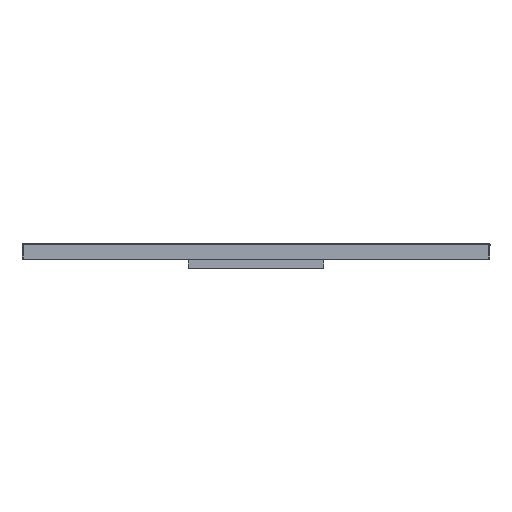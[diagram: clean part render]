
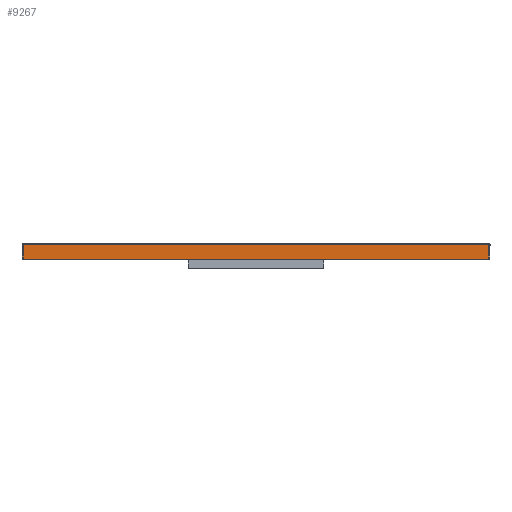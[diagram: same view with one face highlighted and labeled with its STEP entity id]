
A CAD part, left-side view. The second image highlights one B-rep face of the part: STEP entity #9267.
In plain terms, the highlighted planar face has unit normal (-1, 0, 0).
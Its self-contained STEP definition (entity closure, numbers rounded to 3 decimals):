
#268 = ORIENTED_EDGE ( 'NONE', *, *, #986, .F. ) ;
#656 = LINE ( 'NONE', #13408, #8751 ) ;
#760 = CARTESIAN_POINT ( 'NONE',  ( -84.056, 101.597, -2.091 ) ) ;
#789 = CARTESIAN_POINT ( 'NONE',  ( -84.056, 936.93, -30. ) ) ;
#821 = EDGE_CURVE ( 'NONE', #3640, #9949, #12649, .T. ) ;
#986 = EDGE_CURVE ( 'NONE', #12952, #1796, #3260, .T. ) ;
#1105 = EDGE_CURVE ( 'NONE', #9949, #12952, #6087, .T. ) ;
#1220 = CARTESIAN_POINT ( 'NONE',  ( -84.056, 40.93, -30. ) ) ;
#1796 = VERTEX_POINT ( 'NONE', #789 ) ;
#1805 = CARTESIAN_POINT ( 'NONE',  ( -84.056, 929.931, -2.017 ) ) ;
#1871 = CARTESIAN_POINT ( 'NONE',  ( -84.056, 47.93, -2.017 ) ) ;
#1939 = CARTESIAN_POINT ( 'NONE',  ( -84.056, 908.931, -2.06 ) ) ;
#2003 = CARTESIAN_POINT ( 'NONE',  ( -84.056, 43.264, -2.009 ) ) ;
#2643 = DIRECTION ( 'NONE',  ( 0., 0., -1. ) ) ;
#2852 = CARTESIAN_POINT ( 'NONE',  ( -84.056, 208.93, -2.075 ) ) ;
#2901 = CARTESIAN_POINT ( 'NONE',  ( -84.056, 40.93, 0. ) ) ;
#2917 = CARTESIAN_POINT ( 'NONE',  ( -84.056, 880.93, -2.088 ) ) ;
#3260 = LINE ( 'NONE', #7490, #4510 ) ;
#3539 = ORIENTED_EDGE ( 'NONE', *, *, #13090, .F. ) ;
#3640 = VERTEX_POINT ( 'NONE', #8860 ) ;
#3847 = VECTOR ( 'NONE', #11376, 1000. ) ;
#3966 = CARTESIAN_POINT ( 'NONE',  ( -84.056, 68.93, -2.06 ) ) ;
#4098 = CARTESIAN_POINT ( 'NONE',  ( -84.056, 815.597, -2.078 ) ) ;
#4510 = VECTOR ( 'NONE', #11737, 1000. ) ;
#5973 = CARTESIAN_POINT ( 'NONE',  ( -84.056, 866.93, -2.087 ) ) ;
#6087 = LINE ( 'NONE', #2901, #3847 ) ;
#6102 = CARTESIAN_POINT ( 'NONE',  ( -84.056, 768.931, -2.075 ) ) ;
#6168 = CARTESIAN_POINT ( 'NONE',  ( -84.056, 936.93, -2.005 ) ) ;
#6520 = CARTESIAN_POINT ( 'NONE',  ( -84.056, 40.93, -2.005 ) ) ;
#7083 = CARTESIAN_POINT ( 'NONE',  ( -84.056, 162.264, -2.079 ) ) ;
#7150 = CARTESIAN_POINT ( 'NONE',  ( -84.056, 57.264, -2.038 ) ) ;
#7490 = CARTESIAN_POINT ( 'NONE',  ( -84.056, 38.93, -30. ) ) ;
#7655 = EDGE_LOOP ( 'NONE', ( #10567, #3539, #268, #9720 ) ) ;
#8138 = CARTESIAN_POINT ( 'NONE',  ( -84.056, 320.93, -2.073 ) ) ;
#8336 = CARTESIAN_POINT ( 'NONE',  ( -84.056, 656.931, -2.073 ) ) ;
#8733 = AXIS2_PLACEMENT_3D ( 'NONE', #9112, #13437, #2643 ) ;
#8751 = VECTOR ( 'NONE', #13339, 1000. ) ;
#8860 = CARTESIAN_POINT ( 'NONE',  ( -84.056, 936.93, -2.005 ) ) ;
#9112 = CARTESIAN_POINT ( 'NONE',  ( -84.056, 938.93, 0. ) ) ;
#9184 = CARTESIAN_POINT ( 'NONE',  ( -84.056, 712.931, -2.074 ) ) ;
#9245 = CARTESIAN_POINT ( 'NONE',  ( -84.056, 82.931, -2.08 ) ) ;
#9267 = ADVANCED_FACE ( 'NONE', ( #12168 ), #10287, .F. ) ;
#9720 = ORIENTED_EDGE ( 'NONE', *, *, #1105, .F. ) ;
#9949 = VERTEX_POINT ( 'NONE', #13769 ) ;
#10287 = PLANE ( 'NONE',  #8733 ) ;
#10291 = CARTESIAN_POINT ( 'NONE',  ( -84.056, 124.931, -2.084 ) ) ;
#10357 = CARTESIAN_POINT ( 'NONE',  ( -84.056, 934.597, -2.009 ) ) ;
#10419 = CARTESIAN_POINT ( 'NONE',  ( -84.056, 848.264, -2.083 ) ) ;
#10567 = ORIENTED_EDGE ( 'NONE', *, *, #821, .F. ) ;
#11262 = CARTESIAN_POINT ( 'NONE',  ( -84.056, 488.93, -2.072 ) ) ;
#11376 = DIRECTION ( 'NONE',  ( 0., 0., -1. ) ) ;
#11737 = DIRECTION ( 'NONE',  ( 0., 1., 0. ) ) ;
#12168 = FACE_OUTER_BOUND ( 'NONE', #7655, .T. ) ;
#12312 = CARTESIAN_POINT ( 'NONE',  ( -84.056, 894.93, -2.08 ) ) ;
#12379 = CARTESIAN_POINT ( 'NONE',  ( -84.056, 264.93, -2.074 ) ) ;
#12509 = CARTESIAN_POINT ( 'NONE',  ( -84.056, 920.597, -2.038 ) ) ;
#12649 = B_SPLINE_CURVE_WITH_KNOTS ( 'NONE', 3,
 ( #6168, #10357, #1805, #12509, #1939, #12312, #2917, #5973, #10419, #4098, #6102, #9184, #8336, #13502, #11262, #13440, #8138, #12379, #2852, #7083, #10291, #760, #9245, #3966, #7150, #1871, #2003, #6520 ),
 .UNSPECIFIED., .F., .F.,
 ( 4, 1, 1, 1, 1, 1, 1, 1, 1, 1, 1, 1, 1, 1, 1, 1, 1, 1, 1, 1, 1, 1, 1, 1, 1, 4 ),
 ( 0., 0.008, 0.016, 0.031, 0.047, 0.062, 0.078, 0.094, 0.125, 0.187, 0.25, 0.312, 0.375, 0.5, 0.625, 0.688, 0.75, 0.813, 0.875, 0.906, 0.938, 0.953, 0.969, 0.984, 0.992, 1. ),
 .UNSPECIFIED. ) ;
#12952 = VERTEX_POINT ( 'NONE', #1220 ) ;
#13090 = EDGE_CURVE ( 'NONE', #1796, #3640, #656, .T. ) ;
#13339 = DIRECTION ( 'NONE',  ( 0., 0., 1. ) ) ;
#13408 = CARTESIAN_POINT ( 'NONE',  ( -84.056, 936.93, -30. ) ) ;
#13437 = DIRECTION ( 'NONE',  ( 1., 0., 0. ) ) ;
#13440 = CARTESIAN_POINT ( 'NONE',  ( -84.056, 395.597, -2.072 ) ) ;
#13502 = CARTESIAN_POINT ( 'NONE',  ( -84.056, 582.264, -2.072 ) ) ;
#13769 = CARTESIAN_POINT ( 'NONE',  ( -84.056, 40.93, -2.005 ) ) ;
